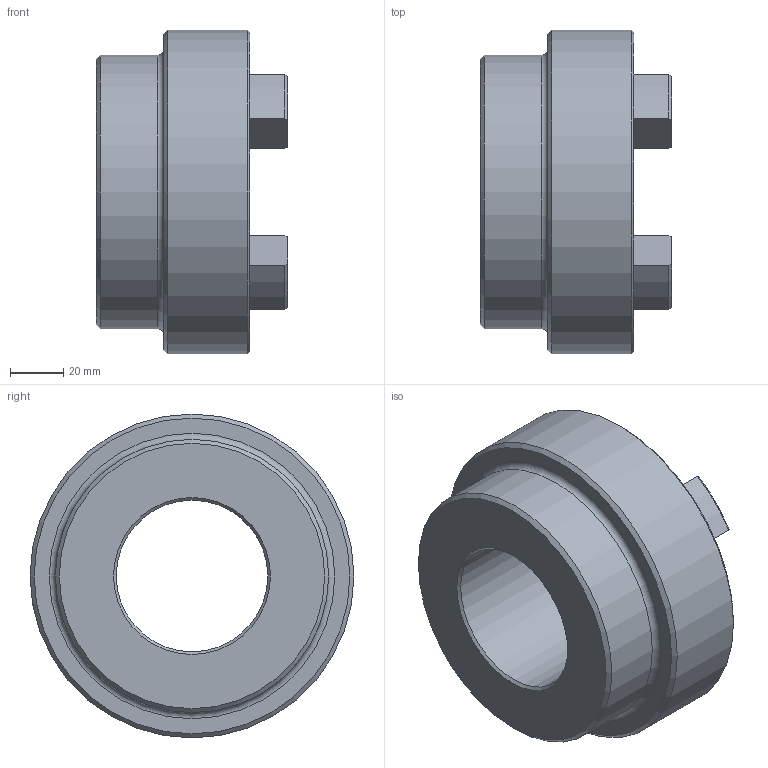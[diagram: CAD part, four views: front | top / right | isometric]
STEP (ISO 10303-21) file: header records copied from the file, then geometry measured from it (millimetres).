
FILE_DESCRIPTION (( 'STEP AP203' ), '1' );
FILE_NAME ('RC5.step', '2024-07-25T13:38:57', ( 'Adlan' ), ( '' ), 'SwSTEP 2.0', 'SolidWorks 2013', '' );
FILE_SCHEMA (( 'CONFIG_CONTROL_DESIGN' ));
Length unit declared in the file: inch
Products named in the file (1): RC5
Bounding box: 72.14 x 122.17 x 122.17 mm (x, y, z)
Volume: 373865.5 mm3; surface area: 57939.1 mm2
Topology: 1 solids, 1 shells, 76 faces, 189 edges, 117 vertices
Faces by surface type: cylinder 31, torus 17, plane 16, cone 12
Full cylindrical faces by diameter (mm): 57.17 x1, 103.124 x1, 122.174 x1
Entity records: 2349 total; most frequent: CARTESIAN_POINT 443, DIRECTION 416, ORIENTED_EDGE 358, EDGE_CURVE 179, AXIS2_PLACEMENT_3D 168, VERTEX_POINT 115, CIRCLE 91, EDGE_LOOP 88
